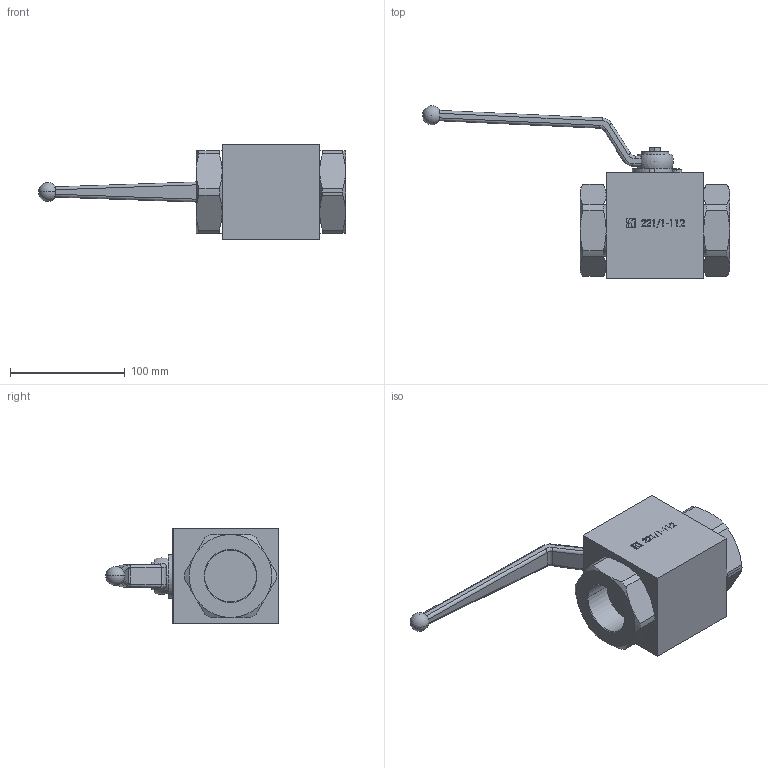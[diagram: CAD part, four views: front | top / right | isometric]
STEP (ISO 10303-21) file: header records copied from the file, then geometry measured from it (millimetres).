
FILE_DESCRIPTION (( 'STEP AP214' ), '1' );
FILE_NAME ('221-1-112.STEP', '2015-05-15T13:18:02', ( '' ), ( '' ), 'SwSTEP 2.0', 'SolidWorks 2014', '' );
FILE_SCHEMA (( 'AUTOMOTIVE_DESIGN' ));
Length unit declared in the file: millimetre
Products named in the file (1): 221-1-112
Bounding box: 267.25 x 150 x 83 mm (x, y, z)
Surface area: 74450.9 mm2 (no closed solid volume)
Topology: 0 solids, 4 shells, 191 faces, 623 edges, 419 vertices
Faces by surface type: plane 94, cylinder 46, bspline 26, cone 18, sphere 5, torus 2
Entity records: 10524 total; most frequent: CARTESIAN_POINT 3295, ORIENTED_EDGE 1054, DIRECTION 969, EDGE_CURVE 610, VERTEX_POINT 411, VECTOR 355, LINE 355, AXIS2_PLACEMENT_3D 307
